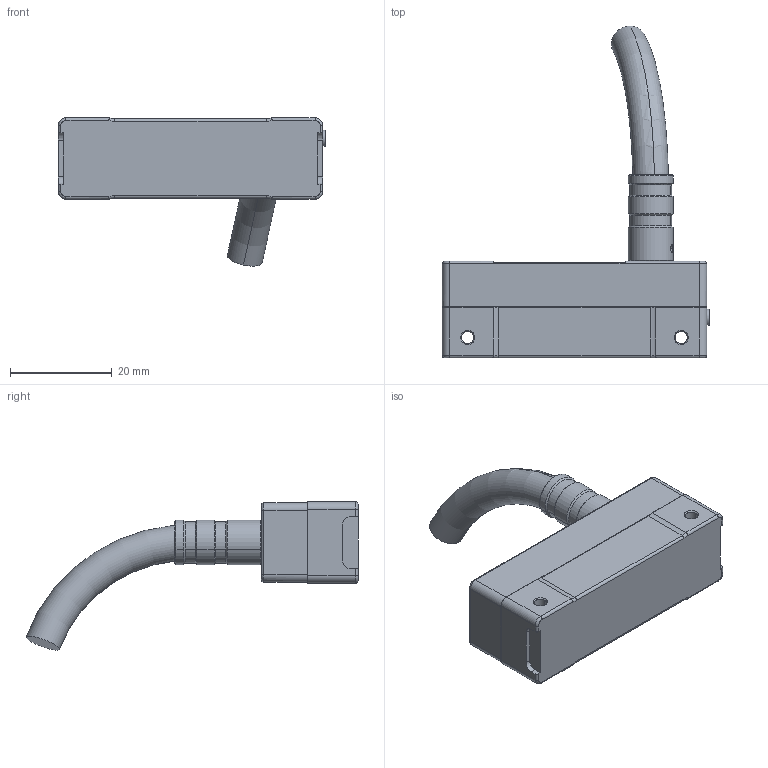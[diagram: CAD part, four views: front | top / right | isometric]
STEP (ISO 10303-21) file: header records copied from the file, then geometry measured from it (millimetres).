
FILE_DESCRIPTION (( 'STEP AP214' ), '1' );
FILE_NAME ('LA12web.STEP', '2025-10-09T09:16:38', ( '' ), ( '' ), 'SwSTEP 2.0', 'SolidWorks 2024', '' );
FILE_SCHEMA (( 'AUTOMOTIVE_DESIGN' ));
Length unit declared in the file: millimetre
Products named in the file (1): LA12web
Bounding box: 52.6 x 65.3 x 29.16 mm (x, y, z)
Volume: 17330.6 mm3; surface area: 5852.6 mm2
Topology: 1 solids, 1 shells, 169 faces, 398 edges, 231 vertices
Faces by surface type: cylinder 60, plane 46, cone 44, torus 14, bspline 3, sphere 2
Entity records: 5830 total; most frequent: CARTESIAN_POINT 1900, DIRECTION 879, ORIENTED_EDGE 780, EDGE_CURVE 390, AXIS2_PLACEMENT_3D 345, VERTEX_POINT 231, LINE 189, VECTOR 189
